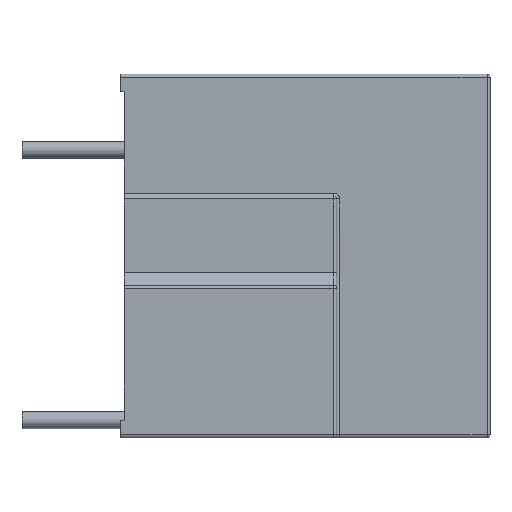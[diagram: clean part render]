
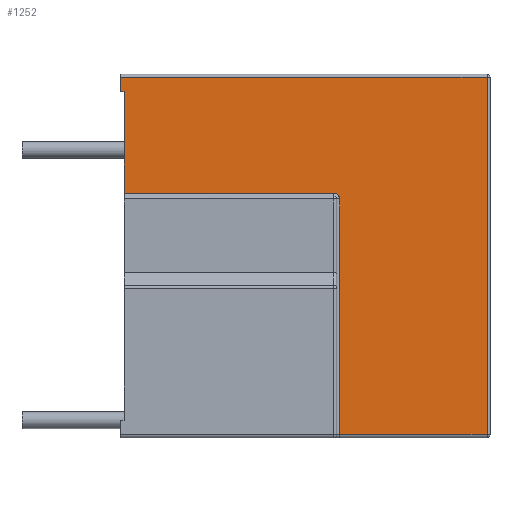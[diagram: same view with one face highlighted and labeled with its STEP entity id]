
A CAD part, left-side view. The second image highlights one B-rep face of the part: STEP entity #1252.
In plain terms, the highlighted planar face has unit normal (-1, 0, 0).
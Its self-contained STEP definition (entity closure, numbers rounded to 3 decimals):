
#140=DIRECTION('',(0.,0.,1.));
#141=VECTOR('',#140,1.5);
#142=CARTESIAN_POINT('',(-8.6,37.6,-1.8));
#143=LINE('',#142,#141);
#188=DIRECTION('',(0.,0.,1.));
#189=VECTOR('',#188,10.3);
#190=CARTESIAN_POINT('',(-8.6,37.2,-12.1));
#191=LINE('',#190,#189);
#334=DIRECTION('',(0.,1.,0.));
#335=VECTOR('',#334,21.3);
#336=CARTESIAN_POINT('',(-8.6,15.9,-12.1));
#337=LINE('',#336,#335);
#338=DIRECTION('',(0.,1.,0.));
#339=VECTOR('',#338,0.4);
#340=CARTESIAN_POINT('',(-8.6,37.2,-1.8));
#341=LINE('',#340,#339);
#342=DIRECTION('',(0.,1.,0.));
#343=VECTOR('',#342,37.3);
#344=CARTESIAN_POINT('',(-8.6,0.3,-0.3));
#345=LINE('',#344,#343);
#346=DIRECTION('',(0.,0.,1.));
#347=VECTOR('',#346,36.4);
#348=CARTESIAN_POINT('',(-8.6,0.3,-36.7));
#349=LINE('',#348,#347);
#350=DIRECTION('',(0.,1.,0.));
#351=VECTOR('',#350,15.);
#352=CARTESIAN_POINT('',(-8.6,0.3,-36.7));
#353=LINE('',#352,#351);
#354=DIRECTION('',(0.,0.,1.));
#355=VECTOR('',#354,24.);
#356=CARTESIAN_POINT('',(-8.6,15.3,-36.7));
#357=LINE('',#356,#355);
#358=CARTESIAN_POINT('',(-8.6,15.9,-12.7));
#359=DIRECTION('',(1.,0.,0.));
#360=DIRECTION('',(0.,0.,1.));
#361=AXIS2_PLACEMENT_3D('',#358,#359,#360);
#727=CARTESIAN_POINT('',(-8.6,37.6,-1.8));
#728=VERTEX_POINT('',#727);
#755=CARTESIAN_POINT('',(-8.6,37.2,-1.8));
#756=VERTEX_POINT('',#755);
#799=CARTESIAN_POINT('',(-8.6,15.9,-12.1));
#800=CARTESIAN_POINT('',(-8.6,37.2,-12.1));
#801=VERTEX_POINT('',#799);
#802=VERTEX_POINT('',#800);
#851=CARTESIAN_POINT('',(-8.6,37.6,-0.3));
#853=VERTEX_POINT('',#851);
#855=CARTESIAN_POINT('',(-8.6,0.3,-0.3));
#856=VERTEX_POINT('',#855);
#857=CARTESIAN_POINT('',(-8.6,0.3,-36.7));
#858=VERTEX_POINT('',#857);
#859=CARTESIAN_POINT('',(-8.6,15.3,-36.7));
#860=VERTEX_POINT('',#859);
#879=CARTESIAN_POINT('',(-8.6,15.3,-12.7));
#880=VERTEX_POINT('',#879);
#1229=CARTESIAN_POINT('',(-8.6,0.,-12.4));
#1230=DIRECTION('',(-1.,0.,0.));
#1231=DIRECTION('',(0.,0.,1.));
#1232=AXIS2_PLACEMENT_3D('',#1229,#1230,#1231);
#1233=PLANE('',#1232);
#1235=ORIENTED_EDGE('',*,*,#1234,.T.);
#1236=ORIENTED_EDGE('',*,*,#1084,.T.);
#1238=ORIENTED_EDGE('',*,*,#1237,.T.);
#1239=ORIENTED_EDGE('',*,*,#1050,.T.);
#1241=ORIENTED_EDGE('',*,*,#1240,.F.);
#1243=ORIENTED_EDGE('',*,*,#1242,.F.);
#1245=ORIENTED_EDGE('',*,*,#1244,.T.);
#1247=ORIENTED_EDGE('',*,*,#1246,.T.);
#1249=ORIENTED_EDGE('',*,*,#1248,.F.);
#1250=EDGE_LOOP('',(#1235,#1236,#1238,#1239,#1241,#1243,#1245,#1247,#1249));
#1251=FACE_OUTER_BOUND('',#1250,.F.);
#1252=ADVANCED_FACE('',(#1251),#1233,.T.);
#362=CIRCLE('',#361,0.6);
#1050=EDGE_CURVE('',#728,#853,#143,.T.);
#1084=EDGE_CURVE('',#802,#756,#191,.T.);
#1234=EDGE_CURVE('',#801,#802,#337,.T.);
#1237=EDGE_CURVE('',#756,#728,#341,.T.);
#1240=EDGE_CURVE('',#856,#853,#345,.T.);
#1242=EDGE_CURVE('',#858,#856,#349,.T.);
#1244=EDGE_CURVE('',#858,#860,#353,.T.);
#1246=EDGE_CURVE('',#860,#880,#357,.T.);
#1248=EDGE_CURVE('',#801,#880,#362,.T.);
